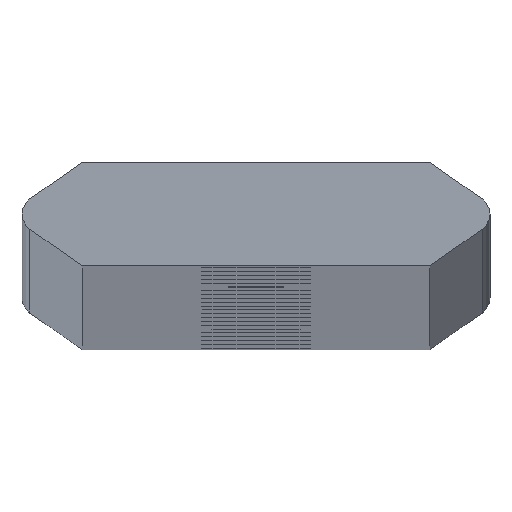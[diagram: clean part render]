
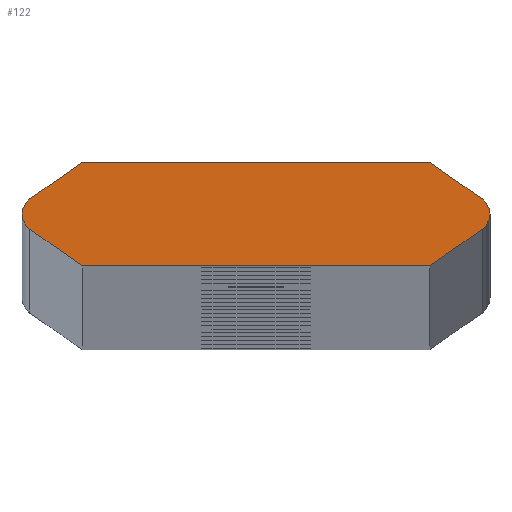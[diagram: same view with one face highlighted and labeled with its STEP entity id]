
A CAD part, top view. The second image highlights one B-rep face of the part: STEP entity #122.
In plain terms, the highlighted planar face has unit normal (0, 0, 1).
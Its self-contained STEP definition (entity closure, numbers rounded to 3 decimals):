
#122=ADVANCED_FACE('',(#226),#227,.T.);
#226=FACE_OUTER_BOUND('',#382,.T.);
#227=PLANE('',#383);
#382=EDGE_LOOP('',(#773,#774,#775,#776,#777,#778,#779,#780,#781,#782));
#383=AXIS2_PLACEMENT_3D('',#783,#784,#785);
#773=ORIENTED_EDGE('',*,*,#941,.T.);
#774=ORIENTED_EDGE('',*,*,#1078,.T.);
#775=ORIENTED_EDGE('',*,*,#1079,.F.);
#776=ORIENTED_EDGE('',*,*,#1080,.F.);
#777=ORIENTED_EDGE('',*,*,#1081,.F.);
#778=ORIENTED_EDGE('',*,*,#937,.T.);
#779=ORIENTED_EDGE('',*,*,#1082,.T.);
#780=ORIENTED_EDGE('',*,*,#1083,.F.);
#781=ORIENTED_EDGE('',*,*,#1084,.F.);
#782=ORIENTED_EDGE('',*,*,#1085,.F.);
#783=CARTESIAN_POINT('',(0.,0.,1976.0));
#784=DIRECTION('',(0.0,0.0,1.0));
#785=DIRECTION('',(1.0,0.0,0.0));
#937=EDGE_CURVE('',#1101,#1098,#1102,.T.);
#941=EDGE_CURVE('',#1109,#1106,#1110,.T.);
#1078=EDGE_CURVE('',#1106,#1336,#1338,.T.);
#1079=EDGE_CURVE('',#1339,#1336,#1340,.T.);
#1080=EDGE_CURVE('',#1341,#1339,#1342,.T.);
#1081=EDGE_CURVE('',#1101,#1341,#1343,.T.);
#1082=EDGE_CURVE('',#1098,#1344,#1345,.T.);
#1083=EDGE_CURVE('',#1346,#1344,#1347,.T.);
#1084=EDGE_CURVE('',#1348,#1346,#1349,.T.);
#1085=EDGE_CURVE('',#1109,#1348,#1350,.T.);
#1098=VERTEX_POINT('',#1368);
#1101=VERTEX_POINT('',#1372);
#1102=CIRCLE('',#1373,0.76);
#1106=VERTEX_POINT('',#1378);
#1109=VERTEX_POINT('',#1382);
#1110=CIRCLE('',#1383,0.76);
#1336=VERTEX_POINT('',#1654);
#1338=CIRCLE('',#1657,0.76);
#1339=VERTEX_POINT('',#1658);
#1340=LINE('',#1659,#1660);
#1341=VERTEX_POINT('',#1661);
#1342=LINE('',#1662,#1663);
#1343=LINE('',#1664,#1665);
#1344=VERTEX_POINT('',#1666);
#1345=CIRCLE('',#1667,0.76);
#1346=VERTEX_POINT('',#1668);
#1347=LINE('',#1669,#1670);
#1348=VERTEX_POINT('',#1671);
#1349=LINE('',#1672,#1673);
#1350=LINE('',#1674,#1675);
#1368=CARTESIAN_POINT('',(9.62,0.,1976.0));
#1372=CARTESIAN_POINT('',(9.299,-0.62,1976.0));
#1373=AXIS2_PLACEMENT_3D('',#1705,#1706,#1707);
#1378=CARTESIAN_POINT('',(-9.62,0.,1976.0));
#1382=CARTESIAN_POINT('',(-9.299,0.62,1976.0));
#1383=AXIS2_PLACEMENT_3D('',#1713,#1714,#1715);
#1654=CARTESIAN_POINT('',(-9.299,-0.62,1976.0));
#1657=AXIS2_PLACEMENT_3D('',#2032,#2033,#2034);
#1658=CARTESIAN_POINT('',(-7.136,-2.135,1976.0));
#1659=CARTESIAN_POINT('',(-10.185,0.,1976.0));
#1660=VECTOR('',#2035,1.0);
#1661=CARTESIAN_POINT('',(7.136,-2.135,1976.0));
#1662=CARTESIAN_POINT('',(7.136,-2.135,1976.0));
#1663=VECTOR('',#2036,1.0);
#1664=CARTESIAN_POINT('',(10.185,0.0,1976.0));
#1665=VECTOR('',#2037,1.0);
#1666=CARTESIAN_POINT('',(9.299,0.62,1976.0));
#1667=AXIS2_PLACEMENT_3D('',#2038,#2039,#2040);
#1668=CARTESIAN_POINT('',(7.136,2.135,1976.0));
#1669=CARTESIAN_POINT('',(10.185,0.0,1976.0));
#1670=VECTOR('',#2041,1.0);
#1671=CARTESIAN_POINT('',(-7.136,2.135,1976.0));
#1672=CARTESIAN_POINT('',(-7.136,2.135,1976.0));
#1673=VECTOR('',#2042,1.0);
#1674=CARTESIAN_POINT('',(-10.185,0.,1976.0));
#1675=VECTOR('',#2043,1.0);
#1705=CARTESIAN_POINT('',(8.86,0.0,1976.0));
#1706=DIRECTION('',(0.0,0.0,1.0));
#1707=DIRECTION('',(1.0,0.0,0.0));
#1713=CARTESIAN_POINT('',(-8.86,0.,1976.0));
#1714=DIRECTION('',(0.0,0.0,1.0));
#1715=DIRECTION('',(-1.0,0.,0.0));
#2032=CARTESIAN_POINT('',(-8.86,0.,1976.0));
#2033=DIRECTION('',(0.0,0.0,1.0));
#2034=DIRECTION('',(-1.0,0.,0.0));
#2035=DIRECTION('',(-0.819,0.574,0.0));
#2036=DIRECTION('',(-1.0,0.0,0.0));
#2037=DIRECTION('',(-0.819,-0.574,0.0));
#2038=CARTESIAN_POINT('',(8.86,0.0,1976.0));
#2039=DIRECTION('',(0.0,0.0,1.0));
#2040=DIRECTION('',(1.0,0.0,0.0));
#2041=DIRECTION('',(0.819,-0.574,0.0));
#2042=DIRECTION('',(1.0,0.,0.0));
#2043=DIRECTION('',(0.819,0.574,0.0));
